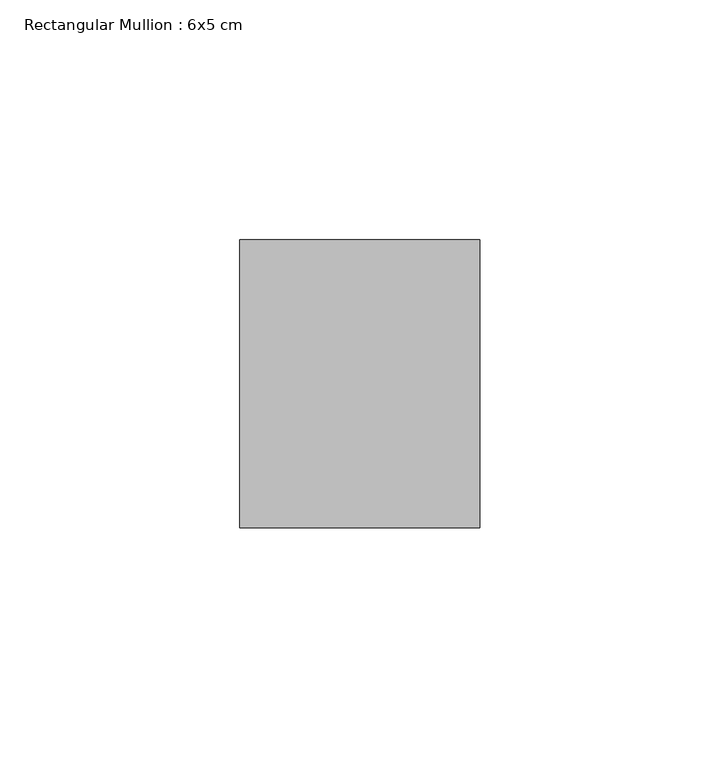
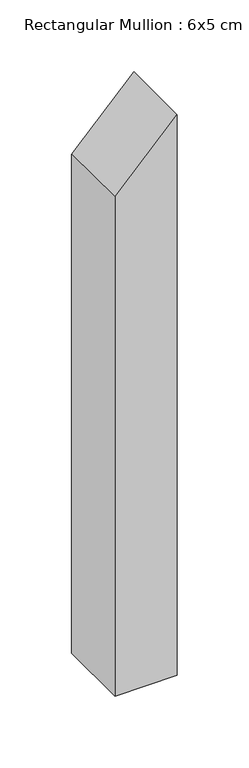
"""IFC4 building model written with IfcOpenShell, lengths in millimetres: member geometry, Rectangular Mullion : 6x5 cm."""

from ifc_helpers import new_model, si_unit, frame, origin, place, context, project, spatial, polyline, outline, extrude, source, transform, mapped, element, save


def rectangular_mullion_6x5_cm_fcdd8aea(model_context):
    return source(origin(), model_context, "Body", "SweptSolid", [
        extrude(outline(polyline([(-46.1833952, 25.0), (-98.3849277, -25.0), (-522.0153257, -25.0), (-522.0153257, 25.0), (-46.1833952, 25.0)])), frame((0.0, 20.0, 0.0), z_axis=(0.0, 1.0, 0.0), x_axis=(0.0, 0.0, 1.0)), (0.0, 0.0, 1.0), 60.0),
    ])


if __name__ == "__main__":
    model = new_model("IFC4")
    model_context = context("Model", 3, world=origin())
    ifc_project = project(units=[si_unit("LENGTHUNIT", "METRE", prefix="MILLI")], contexts=[model_context])
    site = spatial("IfcSite", under=ifc_project)
    building = spatial("IfcBuilding", under=site)
    placement = place(None, origin())
    rectangular_mullion_6x5_cm_shape = rectangular_mullion_6x5_cm_fcdd8aea(model_context)
    element("IfcMember", 1, ObjectType="Rectangular Mullion : 6x5 cm", at=placement, inside=building, context=model_context, shape_type="MappedRepresentation", body=[
        mapped(rectangular_mullion_6x5_cm_shape, transform((0.0, 0.0, 0.0), x_axis=(1.0, 0.0, 0.0), y_axis=(0.0, 1.0, 0.0), z_axis=(0.0, 0.0, 1.0))),
    ])
    save(model, "model.ifc")
